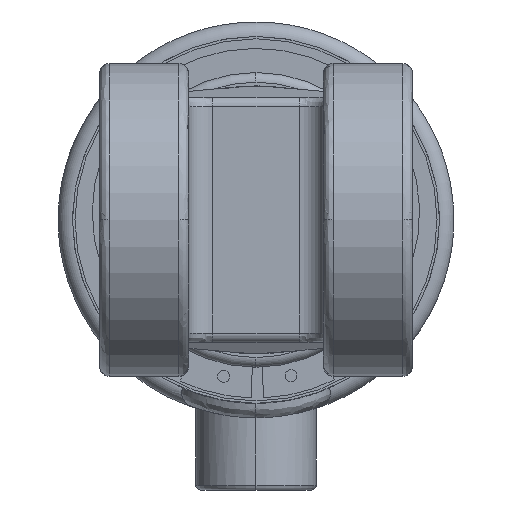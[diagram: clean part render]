
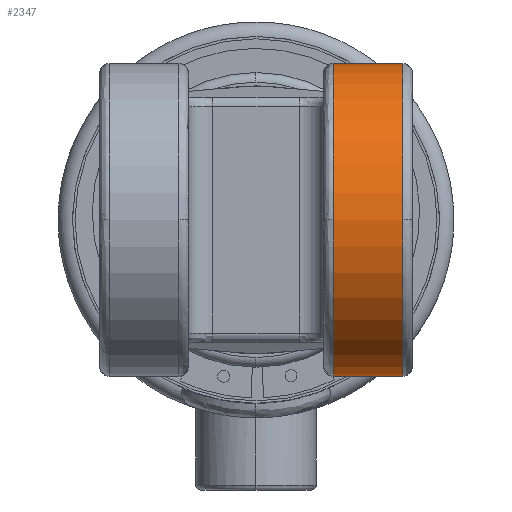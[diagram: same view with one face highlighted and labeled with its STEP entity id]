
A CAD part, left-side view. The second image highlights one B-rep face of the part: STEP entity #2347.
In plain terms, the highlighted cylindrical face has radius 32.5 mm (diameter 65 mm), a partial arc.
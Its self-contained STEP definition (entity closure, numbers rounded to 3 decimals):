
#98 = ORIENTED_EDGE ( 'NONE', *, *, #4968, .T. ) ;
#165 = CIRCLE ( 'NONE', #10536, 32.5 ) ;
#740 = CARTESIAN_POINT ( 'NONE',  ( 44.795, -30.5, -32.5 ) ) ;
#749 = DIRECTION ( 'NONE',  ( 1., 0., 0. ) ) ;
#1417 = DIRECTION ( 'NONE',  ( 0., 1., 0. ) ) ;
#1599 = VERTEX_POINT ( 'NONE', #740 ) ;
#1612 = VERTEX_POINT ( 'NONE', #11218 ) ;
#1633 = EDGE_CURVE ( 'NONE', #1599, #1612, #2744, .T. ) ;
#1688 = AXIS2_PLACEMENT_3D ( 'NONE', #8326, #3097, #5693 ) ;
#1710 = DIRECTION ( 'NONE',  ( 0., 1., 0. ) ) ;
#1776 = CARTESIAN_POINT ( 'NONE',  ( 44.795, -30.5, 0. ) ) ;
#2347 = ADVANCED_FACE ( 'NONE', ( #3833 ), #8198, .T. ) ;
#2504 = VERTEX_POINT ( 'NONE', #6006 ) ;
#2676 = DIRECTION ( 'NONE',  ( 0., 0., 1. ) ) ;
#2744 = LINE ( 'NONE', #10448, #3018 ) ;
#3018 = VECTOR ( 'NONE', #1710, 1000. ) ;
#3070 = CIRCLE ( 'NONE', #6441, 32.5 ) ;
#3097 = DIRECTION ( 'NONE',  ( 0., 1., 0. ) ) ;
#3315 = DIRECTION ( 'NONE',  ( 0., 1., 0. ) ) ;
#3403 = EDGE_LOOP ( 'NONE', ( #98, #10823, #11032, #10604, #11158, #9463 ) ) ;
#3833 = FACE_OUTER_BOUND ( 'NONE', #3403, .T. ) ;
#3861 = CARTESIAN_POINT ( 'NONE',  ( 44.795, -16., 0. ) ) ;
#3964 = EDGE_CURVE ( 'NONE', #9008, #2504, #9266, .T. ) ;
#4744 = DIRECTION ( 'NONE',  ( 1., 0., 0. ) ) ;
#4815 = EDGE_CURVE ( 'NONE', #2504, #1612, #3070, .T. ) ;
#4968 = EDGE_CURVE ( 'NONE', #8482, #6853, #165, .T. ) ;
#5693 = DIRECTION ( 'NONE',  ( 0., 0., 1. ) ) ;
#6006 = CARTESIAN_POINT ( 'NONE',  ( 77.295, -16., 0. ) ) ;
#6007 = DIRECTION ( 'NONE',  ( 0., 1., 0. ) ) ;
#6095 = AXIS2_PLACEMENT_3D ( 'NONE', #3861, #9969, #4744 ) ;
#6206 = LINE ( 'NONE', #9134, #10850 ) ;
#6441 = AXIS2_PLACEMENT_3D ( 'NONE', #11232, #6007, #749 ) ;
#6672 = CARTESIAN_POINT ( 'NONE',  ( 44.795, -30.5, 0. ) ) ;
#6853 = VERTEX_POINT ( 'NONE', #10542 ) ;
#7566 = DIRECTION ( 'NONE',  ( 0., 0., 1. ) ) ;
#7609 = CARTESIAN_POINT ( 'NONE',  ( 44.795, -16., 32.5 ) ) ;
#7673 = AXIS2_PLACEMENT_3D ( 'NONE', #6672, #1417, #7566 ) ;
#7734 = CIRCLE ( 'NONE', #7673, 32.5 ) ;
#7928 = DIRECTION ( 'NONE',  ( 0., 1., 0. ) ) ;
#8198 = CYLINDRICAL_SURFACE ( 'NONE', #1688, 32.5 ) ;
#8326 = CARTESIAN_POINT ( 'NONE',  ( 44.795, -32.5, 0. ) ) ;
#8482 = VERTEX_POINT ( 'NONE', #10805 ) ;
#9008 = VERTEX_POINT ( 'NONE', #7609 ) ;
#9096 = EDGE_CURVE ( 'NONE', #8482, #9008, #6206, .T. ) ;
#9134 = CARTESIAN_POINT ( 'NONE',  ( 44.795, -32.5, 32.5 ) ) ;
#9266 = CIRCLE ( 'NONE', #6095, 32.5 ) ;
#9463 = ORIENTED_EDGE ( 'NONE', *, *, #9096, .F. ) ;
#9969 = DIRECTION ( 'NONE',  ( 0., 1., 0. ) ) ;
#10297 = EDGE_CURVE ( 'NONE', #6853, #1599, #7734, .T. ) ;
#10448 = CARTESIAN_POINT ( 'NONE',  ( 44.795, -32.5, -32.5 ) ) ;
#10536 = AXIS2_PLACEMENT_3D ( 'NONE', #1776, #7928, #2676 ) ;
#10542 = CARTESIAN_POINT ( 'NONE',  ( 77.295, -30.5, 0. ) ) ;
#10604 = ORIENTED_EDGE ( 'NONE', *, *, #4815, .F. ) ;
#10805 = CARTESIAN_POINT ( 'NONE',  ( 44.795, -30.5, 32.5 ) ) ;
#10823 = ORIENTED_EDGE ( 'NONE', *, *, #10297, .T. ) ;
#10850 = VECTOR ( 'NONE', #3315, 1000. ) ;
#11032 = ORIENTED_EDGE ( 'NONE', *, *, #1633, .T. ) ;
#11158 = ORIENTED_EDGE ( 'NONE', *, *, #3964, .F. ) ;
#11218 = CARTESIAN_POINT ( 'NONE',  ( 44.795, -16., -32.5 ) ) ;
#11232 = CARTESIAN_POINT ( 'NONE',  ( 44.795, -16., 0. ) ) ;
